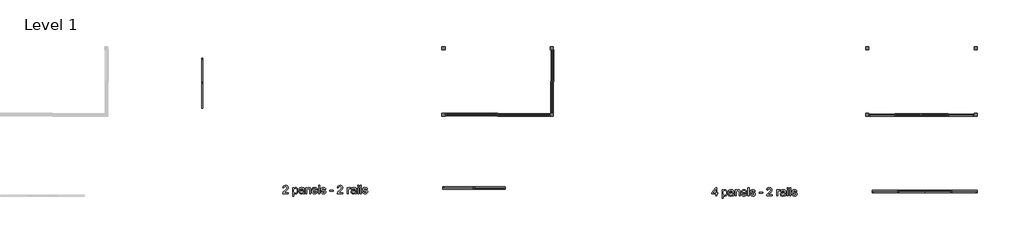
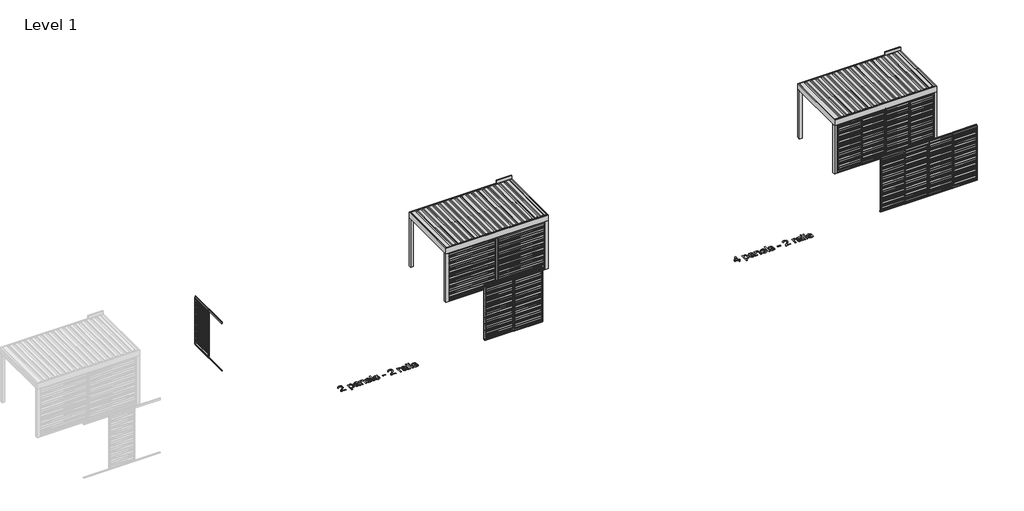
# One storey, part 19 of 47: 19 proxies.
"""IFC4 building model written with IfcOpenShell, lengths in millimetres."""

from ifc_helpers import new_model, si_unit, origin, origin_with_axes, place, context, project, spatial, polyline, outline, extrude, transform, mapped, element, save
from components import generic_models_cf198cd7, generic_models_12cfa856, generic_models_26a3d349, generic_models_2691bd26, generic_models_59c36368, generic_models_49771e81, generic_models_23aa06c6, generic_models_22d4a11b, generic_models_e63a34c5, generic_models_7b957c62, generic_models_5f8b4816, generic_models_1f1d0628, generic_models_a2ce570f, generic_models_d46f8615, generic_models_435024a3, generic_models_6c472f40

model = new_model("IFC4")

# Units and contexts
model_context = context("Model", 3, world=origin())
ifc_project = project(units=[si_unit("LENGTHUNIT", "METRE", prefix="MILLI")], contexts=[model_context])

# Site, building, storey
site = spatial("IfcSite", under=ifc_project)
building = spatial("IfcBuilding", under=site)
storey = spatial("IfcBuildingStorey", under=building, Name="Level 1", Elevation=0.0)

# Proxies
placement = place(None, origin())
generic_models_shape = generic_models_cf198cd7(model_context)
element("IfcBuildingElementProxy", 1, Name="Renson_Algarve_Loggia_Paro_Aluminium : Renson_Algarve_Loggia_Paro_Aluminium", ObjectType="Renson_Algarve_Loggia_Paro_Aluminium : Renson_Algarve_Loggia_Paro_Aluminium", at=placement, inside=storey, context=model_context, shape_type="MappedRepresentation", body=[
    mapped(generic_models_shape, transform((202942.9322709, -17037.0034108, 0.0), x_axis=(1.0, 0.0, 0.0), y_axis=(0.0, 1.0, 0.0), z_axis=(0.0, 0.0, 1.0))),
])
generic_models_2_shape = generic_models_12cfa856(model_context)
element("IfcBuildingElementProxy", 2, Name="Renson_Algarve_Loggia_Paro_Aluminium : Renson_Algarve_Loggia_Paro_Aluminium", ObjectType="Renson_Algarve_Loggia_Paro_Aluminium : Renson_Algarve_Loggia_Paro_Aluminium", at=placement, inside=storey, context=model_context, shape_type="MappedRepresentation", body=[
    mapped(generic_models_2_shape, transform((204047.9322709, -17093.0939149, 0.0), x_axis=(1.0, 0.0, 0.0), y_axis=(0.0, 1.0, 0.0), z_axis=(0.0, 0.0, 1.0))),
])
generic_models_3_shape = generic_models_26a3d349(model_context)
element("IfcBuildingElementProxy", 3, Name="Renson_Algarve_Loggia_Paro_Aluminium : Renson_Algarve_Loggia_Paro_Aluminium", ObjectType="Renson_Algarve_Loggia_Paro_Aluminium : Renson_Algarve_Loggia_Paro_Aluminium", at=placement, inside=storey, context=model_context, shape_type="MappedRepresentation", body=[
    mapped(generic_models_3_shape, transform((218252.9322709, -17214.6246482, 0.0), x_axis=(1.0, 0.0, 0.0), y_axis=(0.0, 1.0, 0.0), z_axis=(0.0, 0.0, 1.0))),
])
generic_models_4_shape = generic_models_2691bd26(model_context)
element("IfcBuildingElementProxy", 4, Name="Renson_Algarve_Loggia_Paro_Aluminium : Renson_Algarve_Loggia_Paro_Aluminium", ObjectType="Renson_Algarve_Loggia_Paro_Aluminium : Renson_Algarve_Loggia_Paro_Aluminium", at=placement, inside=storey, context=model_context, shape_type="MappedRepresentation", body=[
    mapped(generic_models_4_shape, transform((219177.9322709, -17165.7151523, 0.0), x_axis=(1.0, 0.0, 0.0), y_axis=(0.0, 1.0, 0.0), z_axis=(0.0, 0.0, 1.0))),
])
generic_models_5_shape = generic_models_59c36368(model_context)
element("IfcBuildingElementProxy", 5, Name="Renson_Algarve_Loggia_Paro_Aluminium : Renson_Algarve_Loggia_Paro_Aluminium", ObjectType="Renson_Algarve_Loggia_Paro_Aluminium : Renson_Algarve_Loggia_Paro_Aluminium", at=placement, inside=storey, context=model_context, shape_type="MappedRepresentation", body=[
    mapped(generic_models_5_shape, transform((221067.9322709, -17214.6246482, 0.0), x_axis=(-1.0, 0.0, 0.0), y_axis=(0.0, -1.0, 0.0), z_axis=(0.0, 0.0, 1.0))),
])
generic_models_6_shape = generic_models_49771e81(model_context)
element("IfcBuildingElementProxy", 6, Name="Renson_Algarve_Loggia_Paro_Aluminium : Renson_Algarve_Loggia_Paro_Aluminium", ObjectType="Renson_Algarve_Loggia_Paro_Aluminium : Renson_Algarve_Loggia_Paro_Aluminium", at=placement, inside=storey, context=model_context, shape_type="MappedRepresentation", body=[
    mapped(generic_models_6_shape, transform((220142.9322709, -17165.7151523, 0.0), x_axis=(-1.0, 0.0, 0.0), y_axis=(0.0, -1.0, 0.0), z_axis=(0.0, 0.0, 1.0))),
])
generic_models_7_shape = generic_models_23aa06c6(model_context)
element("IfcBuildingElementProxy", 7, Name="Renson_Algarve_Loggia_Paro_Aluminium : Renson_Algarve_Loggia_Paro_Aluminium", ObjectType="Renson_Algarve_Loggia_Paro_Aluminium : Renson_Algarve_Loggia_Paro_Aluminium", at=placement, inside=storey, context=model_context, shape_type="MappedRepresentation", body=[
    mapped(generic_models_7_shape, transform((206276.0580717, -13805.6941749, 0.0), x_axis=(0.0, 1.0, 0.0), y_axis=(-1.0, 0.0, 0.0), z_axis=(0.0, 0.0, 1.0))),
])
generic_models_8_shape = generic_models_22d4a11b(model_context)
element("IfcBuildingElementProxy", 8, Name="Renson_Algarve_Loggia_Paro_Aluminium : Renson_Algarve_Loggia_Paro_Aluminium", ObjectType="Renson_Algarve_Loggia_Paro_Aluminium : Renson_Algarve_Loggia_Paro_Aluminium", at=placement, inside=storey, context=model_context, shape_type="MappedRepresentation", body=[
    mapped(generic_models_8_shape, transform((206332.1485758, -12673.1941749, 0.0), x_axis=(0.0, 1.0, 0.0), y_axis=(-1.0, 0.0, 0.0), z_axis=(0.0, 0.0, 1.0))),
])
generic_models_9_shape = generic_models_e63a34c5(model_context)
element("IfcBuildingElementProxy", 9, Name="Renson_Algarve_Loggia_Paro_Aluminium : Renson_Algarve_Loggia_Paro_Aluminium", ObjectType="Renson_Algarve_Loggia_Paro_Aluminium : Renson_Algarve_Loggia_Paro_Aluminium", at=placement, inside=storey, context=model_context, shape_type="MappedRepresentation", body=[
    mapped(generic_models_9_shape, transform((193749.4238385, -12853.1941749, 0.0), x_axis=(0.0, 1.0, 0.0), y_axis=(-1.0, 0.0, 0.0), z_axis=(0.0, 0.0, 1.0))),
])
generic_models_10_shape = generic_models_7b957c62(model_context)
element("IfcBuildingElementProxy", 10, Name="Renson_Algarve_Loggia_Paro_Aluminium : Renson_Algarve_Loggia_Paro_Aluminium", ObjectType="Renson_Algarve_Loggia_Paro_Aluminium : Renson_Algarve_Loggia_Paro_Aluminium", at=placement, inside=storey, context=model_context, shape_type="MappedRepresentation", body=[
    mapped(generic_models_10_shape, transform((203400.1485758, -14410.7354346, 0.0), x_axis=(1.0, 0.0, 0.0), y_axis=(0.0, 1.0, 0.0), z_axis=(0.0, 0.0, 1.0))),
])
generic_models_11_shape = generic_models_5f8b4816(model_context)
element("IfcBuildingElementProxy", 11, Name="Renson_Algarve_Loggia_Paro_Aluminium : Renson_Algarve_Loggia_Paro_Aluminium", ObjectType="Renson_Algarve_Loggia_Paro_Aluminium : Renson_Algarve_Loggia_Paro_Aluminium", at=placement, inside=storey, context=model_context, shape_type="MappedRepresentation", body=[
    mapped(generic_models_11_shape, transform((205290.1485758, -14466.8259387, 0.0), x_axis=(1.0, 0.0, 0.0), y_axis=(0.0, 1.0, 0.0), z_axis=(0.0, 0.0, 1.0))),
])
generic_models_12_shape = generic_models_1f1d0628(model_context)
element("IfcBuildingElementProxy", 12, Name="Renson_Algarve_Loggia_Paro_Aluminium : Renson_Algarve_Loggia_Paro_Aluminium", ObjectType="Renson_Algarve_Loggia_Paro_Aluminium : Renson_Algarve_Loggia_Paro_Aluminium", at=placement, inside=storey, context=model_context, shape_type="MappedRepresentation", body=[
    mapped(generic_models_12_shape, transform((218137.6485758, -14470.8975952, 0.0), x_axis=(1.0, 0.0, 0.0), y_axis=(0.0, 1.0, 0.0), z_axis=(0.0, 0.0, 1.0))),
])
generic_models_13_shape = generic_models_a2ce570f(model_context)
element("IfcBuildingElementProxy", 13, Name="Renson_Algarve_Loggia_Paro_Aluminium : Renson_Algarve_Loggia_Paro_Aluminium", ObjectType="Renson_Algarve_Loggia_Paro_Aluminium : Renson_Algarve_Loggia_Paro_Aluminium", at=placement, inside=storey, context=model_context, shape_type="MappedRepresentation", body=[
    mapped(generic_models_13_shape, transform((219062.6485758, -14427.1915197, 0.0), x_axis=(1.0, 0.0, 0.0), y_axis=(0.0, 1.0, 0.0), z_axis=(0.0, 0.0, 1.0))),
])
generic_models_14_shape = generic_models_d46f8615(model_context)
element("IfcBuildingElementProxy", 14, Name="Renson_Algarve_Loggia_Paro_Aluminium : Renson_Algarve_Loggia_Paro_Aluminium", ObjectType="Renson_Algarve_Loggia_Paro_Aluminium : Renson_Algarve_Loggia_Paro_Aluminium", at=placement, inside=storey, context=model_context, shape_type="MappedRepresentation", body=[
    mapped(generic_models_14_shape, transform((220952.6485758, -14470.8975952, 0.0), x_axis=(-1.0, 0.0, 0.0), y_axis=(0.0, -1.0, 0.0), z_axis=(0.0, 0.0, 1.0))),
])
generic_models_15_shape = generic_models_435024a3(model_context)
element("IfcBuildingElementProxy", 15, Name="Renson_Algarve_Loggia_Paro_Aluminium : Renson_Algarve_Loggia_Paro_Aluminium", ObjectType="Renson_Algarve_Loggia_Paro_Aluminium : Renson_Algarve_Loggia_Paro_Aluminium", at=placement, inside=storey, context=model_context, shape_type="MappedRepresentation", body=[
    mapped(generic_models_15_shape, transform((220027.6485758, -14427.1915197, 0.0), x_axis=(-1.0, 0.0, 0.0), y_axis=(0.0, -1.0, 0.0), z_axis=(0.0, 0.0, 1.0))),
])
generic_models_16_shape = generic_models_6c472f40(model_context)
element("IfcBuildingElementProxy", 16, Name="Renson_Algarve_Single : Algarve - Single", ObjectType="Renson_Algarve_Single : Algarve - Single", at=placement, inside=storey, context=model_context, shape_type="MappedRepresentation", body=[
    mapped(generic_models_16_shape, transform((204345.1485758, -13240.6941749, 0.0), x_axis=(1.0, 0.0, 0.0), y_axis=(0.0, 1.0, 0.0), z_axis=(0.0, 0.0, 1.0))),
])
element("IfcBuildingElementProxy", 17, Name="Renson_Algarve_Single : Algarve - Single", ObjectType="Renson_Algarve_Single : Algarve - Single", at=placement, inside=storey, context=model_context, shape_type="MappedRepresentation", body=[
    mapped(generic_models_16_shape, transform((219545.1485758, -13240.6941749, 0.0), x_axis=(1.0, 0.0, 0.0), y_axis=(0.0, 1.0, 0.0), z_axis=(0.0, 0.0, 1.0))),
])
element("IfcBuildingElementProxy", 18, Name="300mm Arial", ObjectType="300mm Arial", at=placement, inside=storey, context=model_context, shape_type="SweptSolid", body=[
    extrude(outline(polyline([(196832.4792793, -17233.8807049), (196832.4792793, -17271.5518212), (196634.7059187, -17271.5518212), (196638.7526206, -17245.5793524), (196648.041641, -17225.2814633), (196661.6348807, -17205.5905795), (196681.2981734, -17184.9799907), (196708.7973525, -17161.9229867), (196749.448313, -17125.8153689), (196773.8388892, -17099.1623183), (196786.0341774, -17077.530857), (196790.0992734, -17056.4880069), (196786.2641036, -17037.6248576), (196774.7585942, -17021.9438875), (196757.0726673, -17011.3764772), (196734.696245, -17007.8540071), (196711.1977825, -17011.2937038), (196692.9416385, -17021.6127937), (196681.1602176, -17038.0019366), (196677.0859245, -17059.651792), (196639.4148082, -17054.9429025), (196648.5474787, -17018.5041909), (196657.0938373, -17003.9682535), (196668.2935448, -16991.8879285), (196681.8890838, -16982.3919745), (196697.6229369, -16975.6091502), (196735.5055853, -16970.1828908), (196755.6954091, -16971.691207), (196773.6641453, -16976.2161555), (196789.411794, -16983.7577364), (196802.9383551, -16994.3159497), (196813.8023702, -17007.1090461), (196821.5623811, -17021.3552763), (196826.2183876, -17037.0546405), (196827.7703897, -17054.2071385), (196826.0965267, -17072.2241592), (196821.0749374, -17089.9284802), (196812.1629961, -17107.9363039), (196798.8180767, -17126.8638325), (196777.5453003, -17149.4609841), (196744.849788, -17178.4776765), (196701.513289, -17214.714053), (196684.5171408, -17233.8807049), (196832.4792793, -17233.8807049)])), origin_with_axes(), (0.0, 0.0, 1.0), 5.0),
    extrude(outline(polyline([(196997.2904131, -17356.3118329), (196997.2904131, -17050.2340129), (197034.9615294, -17050.2340129), (197034.9615294, -17087.1693653), (197047.2487881, -17068.9500095), (197061.0075747, -17055.9361839), (197077.0472297, -17048.1278885), (197096.1770934, -17045.5251234), (197121.6529216, -17049.1671552), (197143.9281764, -17060.0932504), (197162.0647588, -17077.6412216), (197175.1245696, -17101.1488811), (197183.0156384, -17128.9055776), (197185.6459946, -17159.2006599), (197182.6753475, -17191.4179256), (197173.7634062, -17220.2322829), (197159.1952792, -17244.1814008), (197139.2560751, -17261.8029484), (197116.0335241, -17272.6462702), (197091.6153567, -17276.2607108), (197074.2973118, -17273.8418867), (197058.8370709, -17266.5854143), (197045.6025161, -17255.6317279), (197034.9615294, -17242.1212616), (197034.9615294, -17356.3118329), (196997.2904131, -17356.3118329)]), holes=[polyline([(197034.9615294, -17162.6587507), (197039.0358225, -17196.4303178), (197051.2587018, -17220.0483419), (197069.2941166, -17233.9542813), (197090.8060163, -17238.5895945), (197112.6674039, -17233.7887344), (197131.1626712, -17219.3861543), (197143.7718265, -17194.9036076), (197147.9748783, -17159.8628475), (197143.8729941, -17126.2752214), (197131.5673414, -17102.3261035), (197113.5595177, -17087.9787057), (197092.3511207, -17083.1962397), (197071.0599502, -17088.2822083), (197052.3623478, -17103.5401141), (197039.311734, -17128.4917104), (197034.9615294, -17162.6587507)])]), origin_with_axes(), (0.0, 0.0, 1.0), 5.0),
    extrude(outline(polyline([(197369.2926866, -17243.298484), (197351.29406, -17258.7311337), (197332.7620045, -17268.8294945), (197313.2734558, -17274.4029067), (197292.4053496, -17276.2607108), (197260.9238479, -17271.7909445), (197237.701297, -17258.3816458), (197223.3814903, -17238.0193774), (197218.6082214, -17212.690702), (197220.4108432, -17197.0741113), (197225.8187085, -17182.8922604), (197234.1604328, -17170.7521546), (197244.7646313, -17161.2607991), (197271.1417703, -17148.8999641), (197303.7361151, -17143.2345813), (197342.25336, -17137.274893), (197369.0719574, -17130.2851351), (197369.2926866, -17121.8974256), (197366.6991186, -17105.0852184), (197358.9184144, -17094.0855468), (197341.517596, -17085.9185665), (197317.2741725, -17083.1962397), (197294.8333708, -17085.0080585), (197279.1615978, -17090.443515), (197268.4746259, -17100.4958905), (197260.9882273, -17116.1584665), (197223.317111, -17111.4495769), (197229.8562134, -17090.8481852), (197239.6142833, -17074.6613774), (197253.5018287, -17062.2821483), (197272.4293573, -17053.1034925), (197295.5783319, -17047.4197157), (197322.1302149, -17045.5251234), (197347.596846, -17047.1989865), (197367.7843705, -17052.2205757), (197383.005488, -17059.7713537), (197393.5728983, -17069.0327829), (197400.5810503, -17080.48311), (197405.124393, -17094.6005816), (197406.9638029, -17127.5628083), (197406.9638029, -17174.4309745), (197408.8767893, -17239.8771815), (197416.381582, -17271.5518212), (197378.7104657, -17271.5518212), (197369.2926866, -17243.298484)]), holes=[polyline([(197369.2926866, -17167.9562514), (197308.518581, -17179.5077461), (197276.1081773, -17185.6145872), (197261.4296857, -17195.547401), (197256.2793377, -17210.0419517), (197259.0844379, -17221.2439584), (197267.4997386, -17230.4226142), (197281.3412986, -17236.5478494), (197300.4251771, -17238.5895945), (197320.6586869, -17236.3363173), (197338.5377518, -17229.5764856), (197353.0323025, -17219.6160806), (197363.1122691, -17207.7610833), (197367.5820354, -17195.547401), (197369.0719574, -17178.6248293), (197369.2926866, -17167.9562514)])]), origin_with_axes(), (0.0, 0.0, 1.0), 5.0),
    extrude(outline(polyline([(197458.7615879, -17271.5518212), (197458.7615879, -17050.2340129), (197496.4327042, -17050.2340129), (197496.4327042, -17081.1361005), (197509.5201062, -17065.556298), (197525.2378644, -17054.4278677), (197543.5859789, -17047.7508095), (197564.5644497, -17045.5251234), (197583.1332934, -17047.3185481), (197600.1386386, -17052.6988223), (197614.3204895, -17060.9945613), (197624.4188503, -17071.5343805), (197635.7128275, -17099.2358947), (197637.6993903, -17135.6562122), (197637.6993903, -17271.5518212), (197600.028274, -17271.5518212), (197600.028274, -17140.7329838), (197595.6872665, -17107.402875), (197589.6815929, -17097.4792582), (197580.3465873, -17089.7813274), (197568.3812254, -17084.8425116), (197554.484483, -17083.1962397), (197532.4207604, -17086.8934538), (197513.6127933, -17097.9850959), (197506.0965043, -17107.0395915), (197500.7277265, -17119.4142221), (197496.4327042, -17154.1238884), (197496.4327042, -17271.5518212), (197458.7615879, -17271.5518212)])), origin_with_axes(), (0.0, 0.0, 1.0), 5.0),
    extrude(outline(polyline([(197844.4490716, -17205.6273677), (197881.3844239, -17210.3362572), (197868.0762927, -17238.1665302), (197846.8403046, -17258.970257), (197818.154706, -17271.9380973), (197782.4977436, -17276.2607108), (197759.1234414, -17274.3960089), (197738.2967219, -17268.8019033), (197720.0175853, -17259.478394), (197704.2860314, -17246.425481), (197691.6354893, -17230.0064477), (197682.5993878, -17210.5845776), (197677.1777269, -17188.1598707), (197675.3705066, -17162.7323271), (197677.196121, -17136.44256), (197682.6729642, -17113.2705928), (197691.8010362, -17093.2164256), (197704.580337, -17076.2800582), (197720.2705041, -17062.8247742), (197738.131175, -17053.2138571), (197758.1623496, -17047.4473068), (197780.364028, -17045.5251234), (197801.8506358, -17047.4427083), (197821.281703, -17053.195463), (197838.6572294, -17062.7833875), (197853.9772153, -17076.2064818), (197866.4829039, -17093.106061), (197875.4155386, -17113.12344), (197880.7751194, -17136.258619), (197882.5616463, -17162.5115979), (197882.3409171, -17172.6651409), (197713.0416229, -17172.6651409), (197719.5623313, -17200.8632959), (197734.7098724, -17221.5934463), (197756.57126, -17234.3405574), (197783.2335076, -17238.5895945), (197803.2830763, -17236.6214258), (197820.1688599, -17230.7169198), (197833.8908583, -17220.5081944), (197844.4490716, -17205.6273677)]), holes=[polyline([(197713.0416229, -17134.9940246), (197844.89053, -17134.9940246), (197839.7953644, -17115.0916087), (197829.8073682, -17100.8545755), (197807.8448131, -17087.6108237), (197780.2168753, -17083.1962397), (197754.8238205, -17086.7187098), (197733.8269557, -17097.2861201), (197719.2312375, -17113.7580365), (197713.0416229, -17134.9940246)])]), origin_with_axes(), (0.0, 0.0, 1.0), 5.0),
    extrude(outline(polyline([(197920.2327626, -17271.5518212), (197920.2327626, -16970.1828908), (197957.9038789, -16970.1828908), (197957.9038789, -17271.5518212), (197920.2327626, -17271.5518212)])), origin_with_axes(), (0.0, 0.0, 1.0), 5.0),
    extrude(outline(polyline([(198000.2838848, -17205.6273677), (198037.9550011, -17200.9184782), (198043.8962953, -17217.0317096), (198055.3926076, -17228.8775098), (198072.5175145, -17236.1615733), (198095.3445923, -17238.5895945), (198117.8957586, -17236.3639084), (198133.7514726, -17229.6868502), (198143.1324635, -17220.0115537), (198146.2594605, -17208.7911529), (198143.1140694, -17199.1894328), (198133.6778962, -17191.8685811), (198094.9031339, -17181.1264268), (198038.1757303, -17162.6955389), (198023.8191354, -17153.4341096), (198013.417272, -17141.1744422), (198007.0988987, -17126.6982856), (198004.9927743, -17110.7873894), (198006.6850315, -17096.1916712), (198011.761803, -17082.7179931), (198019.7632364, -17070.899784), (198030.2294792, -17061.2704728), (198054.1785971, -17050.1236484), (198086.5890008, -17045.5251234), (198111.1083358, -17047.3737304), (198132.4270974, -17052.9195515), (198149.5703984, -17061.6199607), (198161.5633515, -17072.9323321), (198169.5096025, -17087.6935971), (198174.5127977, -17106.7406874), (198136.8416814, -17111.4495769), (198132.0868066, -17099.5945797), (198122.6782246, -17090.6642442), (198108.5239648, -17085.0632408), (198089.5320568, -17083.1962397), (198067.9005955, -17084.9804674), (198053.4796213, -17090.3331504), (198045.3678233, -17098.0586723), (198042.6638906, -17106.9614166), (198047.152051, -17117.9243001), (198061.2051432, -17126.2384332), (198093.6523351, -17134.2582606), (198148.944999, -17151.9901728), (198163.5499142, -17160.4698528), (198174.6231623, -17172.0765298), (198181.6037231, -17186.8469919), (198183.9305768, -17204.8180273), (198181.1990529, -17223.3960681), (198173.0044815, -17240.8704628), (198159.6595621, -17255.8708512), (198141.4769945, -17267.0268727), (198119.5144394, -17273.9522513), (198094.8295575, -17276.2607108), (198056.8457415, -17271.8093386), (198029.1258332, -17258.4552222), (198010.6213688, -17236.3455143), (198000.2838848, -17205.6273677)])), origin_with_axes(), (0.0, 0.0, 1.0), 5.0),
    extrude(outline(polyline([(198325.1972629, -17182.08292), (198325.1972629, -17144.4118037), (198442.9195014, -17144.4118037), (198442.9195014, -17182.08292), (198325.1972629, -17182.08292)])), origin_with_axes(), (0.0, 0.0, 1.0), 5.0),
    extrude(outline(polyline([(198786.6684377, -17233.8807049), (198786.6684377, -17271.5518212), (198588.895077, -17271.5518212), (198592.941779, -17245.5793524), (198602.2307994, -17225.2814633), (198615.8240391, -17205.5905795), (198635.4873317, -17184.9799907), (198662.9865109, -17161.9229867), (198703.6374713, -17125.8153689), (198728.0280476, -17099.1623183), (198740.2233358, -17077.530857), (198744.2884318, -17056.4880069), (198740.453262, -17037.6248576), (198728.9477526, -17021.9438875), (198711.2618257, -17011.3764772), (198688.8854033, -17007.8540071), (198665.3869409, -17011.2937038), (198647.1307969, -17021.6127937), (198635.349376, -17038.0019366), (198631.2750829, -17059.651792), (198593.6039666, -17054.9429025), (198602.7366371, -17018.5041909), (198611.2829957, -17003.9682535), (198622.4827032, -16991.8879285), (198636.0782422, -16982.3919745), (198651.8120953, -16975.6091502), (198689.6947437, -16970.1828908), (198709.8845675, -16971.691207), (198727.8533037, -16976.2161555), (198743.6009523, -16983.7577364), (198757.1275134, -16994.3159497), (198767.9915286, -17007.1090461), (198775.7515394, -17021.3552763), (198780.407546, -17037.0546405), (198781.9595481, -17054.2071385), (198780.285685, -17072.2241592), (198775.2640958, -17089.9284802), (198766.3521545, -17107.9363039), (198753.0072351, -17126.8638325), (198731.7344587, -17149.4609841), (198699.0389464, -17178.4776765), (198655.7024474, -17214.714053), (198638.7062992, -17233.8807049), (198786.6684377, -17233.8807049)])), origin_with_axes(), (0.0, 0.0, 1.0), 5.0),
    extrude(outline(polyline([(198951.4795715, -17271.5518212), (198951.4795715, -17050.2340129), (198984.4417983, -17050.2340129), (198984.4417983, -17082.9755105), (198996.6186923, -17063.9927996), (199007.8390932, -17052.8091869), (199019.0962822, -17047.3461393), (199031.3835408, -17045.5251234), (199050.1455226, -17048.4313912), (199069.20181, -17057.1501945), (199056.6202457, -17090.9217616), (199043.3764939, -17085.1276202), (199030.1327421, -17083.1962397), (199018.8847501, -17085.0540438), (199008.8323745, -17090.627456), (199000.7113795, -17099.4934121), (198995.2575289, -17111.2288477), (198990.6773981, -17132.2716979), (198989.1506878, -17155.2275344), (198989.1506878, -17271.5518212), (198951.4795715, -17271.5518212)])), origin_with_axes(), (0.0, 0.0, 1.0), 5.0),
    extrude(outline(polyline([(199234.0129438, -17243.298484), (199216.0143172, -17258.7311337), (199197.4822617, -17268.8294945), (199177.993713, -17274.4029067), (199157.1256068, -17276.2607108), (199125.6441051, -17271.7909445), (199102.4215541, -17258.3816458), (199088.1017475, -17238.0193774), (199083.3284786, -17212.690702), (199085.1311003, -17197.0741113), (199090.5389657, -17182.8922604), (199098.8806899, -17170.7521546), (199109.4848884, -17161.2607991), (199135.8620275, -17148.8999641), (199168.4563723, -17143.2345813), (199206.9736171, -17137.274893), (199233.7922146, -17130.2851351), (199234.0129438, -17121.8974256), (199231.4193757, -17105.0852184), (199223.6386715, -17094.0855468), (199206.2378532, -17085.9185665), (199181.9944297, -17083.1962397), (199159.553628, -17085.0080585), (199143.881855, -17090.443515), (199133.194883, -17100.4958905), (199125.7084844, -17116.1584665), (199088.0373681, -17111.4495769), (199094.5764706, -17090.8481852), (199104.3345405, -17074.6613774), (199118.2220858, -17062.2821483), (199137.1496145, -17053.1034925), (199160.298589, -17047.4197157), (199186.850472, -17045.5251234), (199212.3171031, -17047.1989865), (199232.5046276, -17052.2205757), (199247.7257452, -17059.7713537), (199258.2931555, -17069.0327829), (199265.3013075, -17080.48311), (199269.8446501, -17094.6005816), (199271.6840601, -17127.5628083), (199271.6840601, -17174.4309745), (199273.5970465, -17239.8771815), (199281.1018392, -17271.5518212), (199243.4307229, -17271.5518212), (199234.0129438, -17243.298484)]), holes=[polyline([(199234.0129438, -17167.9562514), (199173.2388382, -17179.5077461), (199140.8284344, -17185.6145872), (199126.1499428, -17195.547401), (199120.9995949, -17210.0419517), (199123.8046951, -17221.2439584), (199132.2199957, -17230.4226142), (199146.0615558, -17236.5478494), (199165.1454343, -17238.5895945), (199185.378944, -17236.3363173), (199203.258009, -17229.5764856), (199217.7525596, -17219.6160806), (199227.8325263, -17207.7610833), (199232.3022925, -17195.547401), (199233.7922146, -17178.6248293), (199234.0129438, -17167.9562514)])]), origin_with_axes(), (0.0, 0.0, 1.0), 5.0),
    extrude(outline(polyline([(199323.481845, -17271.5518212), (199323.481845, -17050.2340129), (199361.1529613, -17050.2340129), (199361.1529613, -17271.5518212), (199323.481845, -17271.5518212)])), origin_with_axes(), (0.0, 0.0, 1.0), 5.0),
    extrude(outline(polyline([(199323.481845, -17007.8540071), (199323.481845, -16970.1828908), (199361.1529613, -16970.1828908), (199361.1529613, -17007.8540071), (199323.481845, -17007.8540071)])), origin_with_axes(), (0.0, 0.0, 1.0), 5.0),
    extrude(outline(polyline([(199417.6596358, -17271.5518212), (199417.6596358, -16970.1828908), (199455.3307521, -16970.1828908), (199455.3307521, -17271.5518212), (199417.6596358, -17271.5518212)])), origin_with_axes(), (0.0, 0.0, 1.0), 5.0),
    extrude(outline(polyline([(199497.7107579, -17205.6273677), (199535.3818742, -17200.9184782), (199541.3231685, -17217.0317096), (199552.8194808, -17228.8775098), (199569.9443877, -17236.1615733), (199592.7714655, -17238.5895945), (199615.3226318, -17236.3639084), (199631.1783458, -17229.6868502), (199640.5593367, -17220.0115537), (199643.6863336, -17208.7911529), (199640.5409426, -17199.1894328), (199631.1047694, -17191.8685811), (199592.3300071, -17181.1264268), (199535.6026034, -17162.6955389), (199521.2460086, -17153.4341096), (199510.8441452, -17141.1744422), (199504.5257719, -17126.6982856), (199502.4196475, -17110.7873894), (199504.1119047, -17096.1916712), (199509.1886762, -17082.7179931), (199517.1901096, -17070.899784), (199527.6563523, -17061.2704728), (199551.6054702, -17050.1236484), (199584.015874, -17045.5251234), (199608.535209, -17047.3737304), (199629.8539706, -17052.9195515), (199646.9972716, -17061.6199607), (199658.9902246, -17072.9323321), (199666.9364757, -17087.6935971), (199671.9396708, -17106.7406874), (199634.2685545, -17111.4495769), (199629.5136798, -17099.5945797), (199620.1050977, -17090.6642442), (199605.950838, -17085.0632408), (199586.95893, -17083.1962397), (199565.3274686, -17084.9804674), (199550.9064944, -17090.3331504), (199542.7946964, -17098.0586723), (199540.0907638, -17106.9614166), (199544.5789241, -17117.9243001), (199558.6320163, -17126.2384332), (199591.0792083, -17134.2582606), (199646.3718722, -17151.9901728), (199660.9767874, -17160.4698528), (199672.0500354, -17172.0765298), (199679.0305963, -17186.8469919), (199681.3574499, -17204.8180273), (199678.6259261, -17223.3960681), (199670.4313547, -17240.8704628), (199657.0864353, -17255.8708512), (199638.9038677, -17267.0268727), (199616.9413126, -17273.9522513), (199592.2564307, -17276.2607108), (199554.2726147, -17271.8093386), (199526.5527064, -17258.4552222), (199508.048242, -17236.3455143), (199497.7107579, -17205.6273677)])), origin_with_axes(), (0.0, 0.0, 1.0), 5.0),
])
element("IfcBuildingElementProxy", 19, Name="300mm Arial", ObjectType="300mm Arial", at=placement, inside=storey, context=model_context, shape_type="SweptSolid", body=[
    extrude(outline(polyline([(212161.8459362, -17349.1730587), (212161.8459362, -17278.5397156), (212025.2881396, -17278.5397156), (212025.2881396, -17240.8685993), (212171.2637153, -17052.5130178), (212199.5170525, -17052.5130178), (212199.5170525, -17240.8685993), (212237.1881688, -17240.8685993), (212237.1881688, -17278.5397156), (212199.5170525, -17278.5397156), (212199.5170525, -17349.1730587), (212161.8459362, -17349.1730587)]), holes=[polyline([(212161.8459362, -17240.8685993), (212161.8459362, -17124.470736), (212071.641271, -17240.8685993), (212161.8459362, -17240.8685993)])]), origin_with_axes(), (0.0, 0.0, 1.0), 5.0),
    extrude(outline(polyline([(212397.2904131, -17433.9330704), (212397.2904131, -17127.8552504), (212434.9615294, -17127.8552504), (212434.9615294, -17164.7906027), (212447.2487881, -17146.5712469), (212461.0075747, -17133.5574213), (212477.0472297, -17125.7491259), (212496.1770934, -17123.1463608), (212521.6529216, -17126.7883926), (212543.9281764, -17137.7144878), (212562.0647588, -17155.262459), (212575.1245696, -17178.7701185), (212583.0156384, -17206.526815), (212585.6459946, -17236.8218973), (212582.6753475, -17269.0391631), (212573.7634062, -17297.8535203), (212559.1952792, -17321.8026382), (212539.2560751, -17339.4241858), (212516.0335241, -17350.2675076), (212491.6153567, -17353.8819482), (212474.2973118, -17351.4631241), (212458.8370709, -17344.2066517), (212445.6025161, -17333.2529653), (212434.9615294, -17319.7424991), (212434.9615294, -17433.9330704), (212397.2904131, -17433.9330704)]), holes=[polyline([(212434.9615294, -17240.2799881), (212439.0358225, -17274.0515553), (212451.2587018, -17297.6695793), (212469.2941166, -17311.5755188), (212490.8060163, -17316.2108319), (212512.6674039, -17311.4099719), (212531.1626712, -17297.0073918), (212543.7718265, -17272.524845), (212547.9748783, -17237.4840849), (212543.8729941, -17203.8964588), (212531.5673414, -17179.9473409), (212513.5595177, -17165.5999431), (212492.3511207, -17160.8174771), (212471.0599502, -17165.9034457), (212452.3623478, -17181.1613515), (212439.311734, -17206.1129478), (212434.9615294, -17240.2799881)])]), origin_with_axes(), (0.0, 0.0, 1.0), 5.0),
    extrude(outline(polyline([(212769.2926866, -17320.9197214), (212751.29406, -17336.3523711), (212732.7620045, -17346.4507319), (212713.2734558, -17352.0241441), (212692.4053496, -17353.8819482), (212660.9238479, -17349.412182), (212637.701297, -17336.0028832), (212623.3814903, -17315.6406148), (212618.6082214, -17290.3119394), (212620.4108432, -17274.6953487), (212625.8187085, -17260.5134978), (212634.1604328, -17248.373392), (212644.7646313, -17238.8820365), (212671.1417703, -17226.5212015), (212703.7361151, -17220.8558188), (212742.25336, -17214.8961304), (212769.0719574, -17207.9063725), (212769.2926866, -17199.518663), (212766.6991186, -17182.7064559), (212758.9184144, -17171.7067842), (212741.517596, -17163.5398039), (212717.2741725, -17160.8174771), (212694.8333708, -17162.629296), (212679.1615978, -17168.0647524), (212668.4746259, -17178.117128), (212660.9882273, -17193.7797039), (212623.317111, -17189.0708144), (212629.8562134, -17168.4694226), (212639.6142833, -17152.2826149), (212653.5018287, -17139.9033857), (212672.4293573, -17130.7247299), (212695.5783319, -17125.0409531), (212722.1302149, -17123.1463608), (212747.596846, -17124.8202239), (212767.7843705, -17129.8418131), (212783.005488, -17137.3925911), (212793.5728983, -17146.6540203), (212800.5810503, -17158.1043474), (212805.124393, -17172.221819), (212806.9638029, -17205.1840458), (212806.9638029, -17252.0522119), (212808.8767893, -17317.4984189), (212816.381582, -17349.1730587), (212778.7104657, -17349.1730587), (212769.2926866, -17320.9197214)]), holes=[polyline([(212769.2926866, -17245.5774888), (212708.518581, -17257.1289835), (212676.1081773, -17263.2358246), (212661.4296857, -17273.1686385), (212656.2793377, -17287.6631891), (212659.0844379, -17298.8651958), (212667.4997386, -17308.0438516), (212681.3412986, -17314.1690868), (212700.4251771, -17316.2108319), (212720.6586869, -17313.9575547), (212738.5377518, -17307.197723), (212753.0323025, -17297.237318), (212763.1122691, -17285.3823207), (212767.5820354, -17273.1686385), (212769.0719574, -17256.2460667), (212769.2926866, -17245.5774888)])]), origin_with_axes(), (0.0, 0.0, 1.0), 5.0),
    extrude(outline(polyline([(212858.7615879, -17349.1730587), (212858.7615879, -17127.8552504), (212896.4327042, -17127.8552504), (212896.4327042, -17158.757338), (212909.5201062, -17143.1775355), (212925.2378644, -17132.0491051), (212943.5859789, -17125.3720469), (212964.5644497, -17123.1463608), (212983.1332934, -17124.9397856), (213000.1386386, -17130.3200597), (213014.3204895, -17138.6157987), (213024.4188503, -17149.1556179), (213035.7128275, -17176.8571321), (213037.6993903, -17213.2774497), (213037.6993903, -17349.1730587), (213000.028274, -17349.1730587), (213000.028274, -17218.3542212), (212995.6872665, -17185.0241124), (212989.6815929, -17175.1004956), (212980.3465873, -17167.4025649), (212968.3812254, -17162.4637491), (212954.484483, -17160.8174771), (212932.4207604, -17164.5146912), (212913.6127933, -17175.6063333), (212906.0965043, -17184.660829), (212900.7277265, -17197.0354596), (212896.4327042, -17231.7451258), (212896.4327042, -17349.1730587), (212858.7615879, -17349.1730587)])), origin_with_axes(), (0.0, 0.0, 1.0), 5.0),
    extrude(outline(polyline([(213244.4490716, -17283.2486051), (213281.3844239, -17287.9574947), (213268.0762927, -17315.7877676), (213246.8403046, -17336.5914944), (213218.154706, -17349.5593348), (213182.4977436, -17353.8819482), (213159.1234414, -17352.0172463), (213138.2967219, -17346.4231408), (213120.0175853, -17337.0996314), (213104.2860314, -17324.0467184), (213091.6354893, -17307.6276851), (213082.5993878, -17288.205815), (213077.1777269, -17265.7811081), (213075.3705066, -17240.3535645), (213077.196121, -17214.0637974), (213082.6729642, -17190.8918302), (213091.8010362, -17170.837663), (213104.580337, -17153.9012956), (213120.2705041, -17140.4460117), (213138.131175, -17130.8350945), (213158.1623496, -17125.0685443), (213180.364028, -17123.1463608), (213201.8506358, -17125.0639457), (213221.281703, -17130.8167004), (213238.6572294, -17140.4046249), (213253.9772153, -17153.8277192), (213266.4829039, -17170.7272984), (213275.4155386, -17190.7446774), (213280.7751194, -17213.8798564), (213282.5616463, -17240.1328353), (213282.3409171, -17250.2863784), (213113.0416229, -17250.2863784), (213119.5623313, -17278.4845333), (213134.7098724, -17299.2146837), (213156.57126, -17311.9617949), (213183.2335076, -17316.2108319), (213203.2830763, -17314.2426632), (213220.1688599, -17308.3381572), (213233.8908583, -17298.1294318), (213244.4490716, -17283.2486051)]), holes=[polyline([(213113.0416229, -17212.6152621), (213244.89053, -17212.6152621), (213239.7953644, -17192.7128461), (213229.8073682, -17178.4758129), (213207.8448131, -17165.2320611), (213180.2168753, -17160.8174771), (213154.8238205, -17164.3399472), (213133.8269557, -17174.9073576), (213119.2312375, -17191.3792739), (213113.0416229, -17212.6152621)])]), origin_with_axes(), (0.0, 0.0, 1.0), 5.0),
    extrude(outline(polyline([(213320.2327626, -17349.1730587), (213320.2327626, -17047.8041282), (213357.9038789, -17047.8041282), (213357.9038789, -17349.1730587), (213320.2327626, -17349.1730587)])), origin_with_axes(), (0.0, 0.0, 1.0), 5.0),
    extrude(outline(polyline([(213400.2838848, -17283.2486051), (213437.9550011, -17278.5397156), (213443.8962953, -17294.652947), (213455.3926076, -17306.4987472), (213472.5175145, -17313.7828107), (213495.3445923, -17316.2108319), (213517.8957586, -17313.9851458), (213533.7514726, -17307.3080876), (213543.1324635, -17297.6327911), (213546.2594605, -17286.4123903), (213543.1140694, -17276.8106702), (213533.6778962, -17269.4898185), (213494.9031339, -17258.7476643), (213438.1757303, -17240.3167763), (213423.8191354, -17231.0553471), (213413.417272, -17218.7956796), (213407.0988987, -17204.3195231), (213404.9927743, -17188.4086268), (213406.6850315, -17173.8129086), (213411.761803, -17160.3392305), (213419.7632364, -17148.5210214), (213430.2294792, -17138.8917102), (213454.1785971, -17127.7448858), (213486.5890008, -17123.1463608), (213511.1083358, -17124.9949679), (213532.4270974, -17130.5407889), (213549.5703984, -17139.2411981), (213561.5633515, -17150.5535695), (213569.5096025, -17165.3148345), (213574.5127977, -17184.3619248), (213536.8416814, -17189.0708144), (213532.0868066, -17177.2158171), (213522.6782246, -17168.2854816), (213508.5239648, -17162.6844783), (213489.5320568, -17160.8174771), (213467.9005955, -17162.6017048), (213453.4796213, -17167.9543878), (213445.3678233, -17175.6799097), (213442.6638906, -17184.582654), (213447.152051, -17195.5455375), (213461.2051432, -17203.8596706), (213493.6523351, -17211.8794981), (213548.944999, -17229.6114102), (213563.5499142, -17238.0910902), (213574.6231623, -17249.6977672), (213581.6037231, -17264.4682293), (213583.9305768, -17282.4392647), (213581.1990529, -17301.0173055), (213573.0044815, -17318.4917003), (213559.6595621, -17333.4920886), (213541.4769945, -17344.6481101), (213519.5144394, -17351.5734887), (213494.8295575, -17353.8819482), (213456.8457415, -17349.4305761), (213429.1258332, -17336.0764596), (213410.6213688, -17313.9667517), (213400.2838848, -17283.2486051)])), origin_with_axes(), (0.0, 0.0, 1.0), 5.0),
    extrude(outline(polyline([(213725.1972629, -17259.7041574), (213725.1972629, -17222.0330411), (213842.9195014, -17222.0330411), (213842.9195014, -17259.7041574), (213725.1972629, -17259.7041574)])), origin_with_axes(), (0.0, 0.0, 1.0), 5.0),
    extrude(outline(polyline([(214186.6684377, -17311.5019424), (214186.6684377, -17349.1730587), (213988.895077, -17349.1730587), (213992.941779, -17323.2005898), (214002.2307994, -17302.9027007), (214015.8240391, -17283.2118169), (214035.4873317, -17262.6012282), (214062.9865109, -17239.5442241), (214103.6374713, -17203.4366063), (214128.0280476, -17176.7835557), (214140.2233358, -17155.1520944), (214144.2884318, -17134.1092443), (214140.453262, -17115.246095), (214128.9477526, -17099.5651249), (214111.2618257, -17088.9977146), (214088.8854033, -17085.4752445), (214065.3869409, -17088.9149412), (214047.1307969, -17099.2340311), (214035.349376, -17115.623174), (214031.2750829, -17137.2730294), (213993.6039666, -17132.5641399), (214002.7366371, -17096.1254283), (214011.2829957, -17081.589491), (214022.4827032, -17069.5091659), (214036.0782422, -17060.0132119), (214051.8120953, -17053.2303876), (214089.6947437, -17047.8041282), (214109.8845675, -17049.3124444), (214127.8533037, -17053.8373929), (214143.6009523, -17061.3789738), (214157.1275134, -17071.9371871), (214167.9915286, -17084.7302835), (214175.7515394, -17098.9765137), (214180.407546, -17114.6758779), (214181.9595481, -17131.8283759), (214180.285685, -17149.8453966), (214175.2640958, -17167.5497177), (214166.3521545, -17185.5575413), (214153.0072351, -17204.48507), (214131.7344587, -17227.0822215), (214099.0389464, -17256.0989139), (214055.7024474, -17292.3352904), (214038.7062992, -17311.5019424), (214186.6684377, -17311.5019424)])), origin_with_axes(), (0.0, 0.0, 1.0), 5.0),
    extrude(outline(polyline([(214351.4795715, -17349.1730587), (214351.4795715, -17127.8552504), (214384.4417983, -17127.8552504), (214384.4417983, -17160.5967479), (214396.6186923, -17141.614037), (214407.8390932, -17130.4304243), (214419.0962822, -17124.9673767), (214431.3835408, -17123.1463608), (214450.1455226, -17126.0526286), (214469.20181, -17134.7714319), (214456.6202457, -17168.542999), (214443.3764939, -17162.7488576), (214430.1327421, -17160.8174771), (214418.8847501, -17162.6752812), (214408.8323745, -17168.2486934), (214400.7113795, -17177.1146495), (214395.2575289, -17188.8500852), (214390.6773981, -17209.8929353), (214389.1506878, -17232.8487718), (214389.1506878, -17349.1730587), (214351.4795715, -17349.1730587)])), origin_with_axes(), (0.0, 0.0, 1.0), 5.0),
    extrude(outline(polyline([(214634.0129438, -17320.9197214), (214616.0143172, -17336.3523711), (214597.4822617, -17346.4507319), (214577.993713, -17352.0241441), (214557.1256068, -17353.8819482), (214525.6441051, -17349.412182), (214502.4215541, -17336.0028832), (214488.1017475, -17315.6406148), (214483.3284786, -17290.3119394), (214485.1311003, -17274.6953487), (214490.5389657, -17260.5134978), (214498.8806899, -17248.373392), (214509.4848884, -17238.8820365), (214535.8620275, -17226.5212015), (214568.4563723, -17220.8558188), (214606.9736171, -17214.8961304), (214633.7922146, -17207.9063725), (214634.0129438, -17199.518663), (214631.4193757, -17182.7064559), (214623.6386715, -17171.7067842), (214606.2378532, -17163.5398039), (214581.9944297, -17160.8174771), (214559.553628, -17162.629296), (214543.881855, -17168.0647524), (214533.194883, -17178.117128), (214525.7084844, -17193.7797039), (214488.0373681, -17189.0708144), (214494.5764706, -17168.4694226), (214504.3345405, -17152.2826149), (214518.2220858, -17139.9033857), (214537.1496145, -17130.7247299), (214560.298589, -17125.0409531), (214586.850472, -17123.1463608), (214612.3171031, -17124.8202239), (214632.5046276, -17129.8418131), (214647.7257452, -17137.3925911), (214658.2931555, -17146.6540203), (214665.3013075, -17158.1043474), (214669.8446501, -17172.221819), (214671.6840601, -17205.1840458), (214671.6840601, -17252.0522119), (214673.5970465, -17317.4984189), (214681.1018392, -17349.1730587), (214643.4307229, -17349.1730587), (214634.0129438, -17320.9197214)]), holes=[polyline([(214634.0129438, -17245.5774888), (214573.2388382, -17257.1289835), (214540.8284344, -17263.2358246), (214526.1499428, -17273.1686385), (214520.9995949, -17287.6631891), (214523.8046951, -17298.8651958), (214532.2199957, -17308.0438516), (214546.0615558, -17314.1690868), (214565.1454343, -17316.2108319), (214585.378944, -17313.9575547), (214603.258009, -17307.197723), (214617.7525596, -17297.237318), (214627.8325263, -17285.3823207), (214632.3022925, -17273.1686385), (214633.7922146, -17256.2460667), (214634.0129438, -17245.5774888)])]), origin_with_axes(), (0.0, 0.0, 1.0), 5.0),
    extrude(outline(polyline([(214723.481845, -17085.4752445), (214723.481845, -17047.8041282), (214761.1529613, -17047.8041282), (214761.1529613, -17085.4752445), (214723.481845, -17085.4752445)])), origin_with_axes(), (0.0, 0.0, 1.0), 5.0),
    extrude(outline(polyline([(214723.481845, -17349.1730587), (214723.481845, -17127.8552504), (214761.1529613, -17127.8552504), (214761.1529613, -17349.1730587), (214723.481845, -17349.1730587)])), origin_with_axes(), (0.0, 0.0, 1.0), 5.0),
    extrude(outline(polyline([(214817.6596358, -17349.1730587), (214817.6596358, -17047.8041282), (214855.3307521, -17047.8041282), (214855.3307521, -17349.1730587), (214817.6596358, -17349.1730587)])), origin_with_axes(), (0.0, 0.0, 1.0), 5.0),
    extrude(outline(polyline([(214897.7107579, -17283.2486051), (214935.3818742, -17278.5397156), (214941.3231685, -17294.652947), (214952.8194808, -17306.4987472), (214969.9443877, -17313.7828107), (214992.7714655, -17316.2108319), (215015.3226318, -17313.9851458), (215031.1783458, -17307.3080876), (215040.5593367, -17297.6327911), (215043.6863336, -17286.4123903), (215040.5409426, -17276.8106702), (215031.1047694, -17269.4898185), (214992.3300071, -17258.7476643), (214935.6026034, -17240.3167763), (214921.2460086, -17231.0553471), (214910.8441452, -17218.7956796), (214904.5257719, -17204.3195231), (214902.4196475, -17188.4086268), (214904.1119046, -17173.8129086), (214909.1886762, -17160.3392305), (214917.1901096, -17148.5210214), (214927.6563523, -17138.8917102), (214951.6054702, -17127.7448858), (214984.015874, -17123.1463608), (215008.535209, -17124.9949679), (215029.8539706, -17130.5407889), (215046.9972716, -17139.2411981), (215058.9902246, -17150.5535695), (215066.9364757, -17165.3148345), (215071.9396708, -17184.3619248), (215034.2685545, -17189.0708144), (215029.5136798, -17177.2158171), (215020.1050977, -17168.2854816), (215005.950838, -17162.6844783), (214986.95893, -17160.8174771), (214965.3274686, -17162.6017048), (214950.9064944, -17167.9543878), (214942.7946964, -17175.6799097), (214940.0907638, -17184.582654), (214944.5789241, -17195.5455375), (214958.6320163, -17203.8596706), (214991.0792083, -17211.8794981), (215046.3718722, -17229.6114102), (215060.9767874, -17238.0910902), (215072.0500354, -17249.6977672), (215079.0305963, -17264.4682293), (215081.3574499, -17282.4392647), (215078.6259261, -17301.0173055), (215070.4313547, -17318.4917003), (215057.0864353, -17333.4920886), (215038.9038677, -17344.6481101), (215016.9413126, -17351.5734887), (214992.2564307, -17353.8819482), (214954.2726147, -17349.4305761), (214926.5527064, -17336.0764596), (214908.048242, -17313.9667517), (214897.7107579, -17283.2486051)])), origin_with_axes(), (0.0, 0.0, 1.0), 5.0),
])

save(model, "model.ifc")
